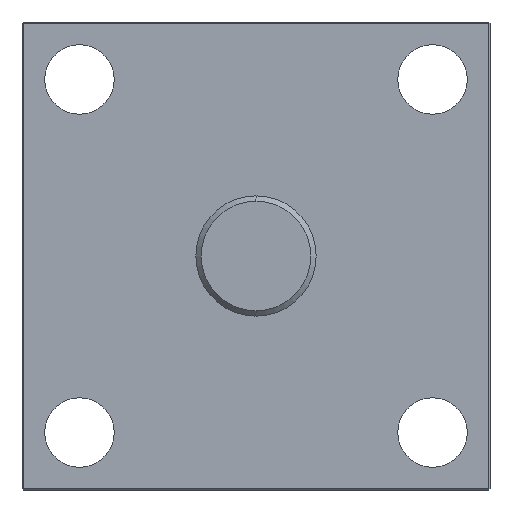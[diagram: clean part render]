
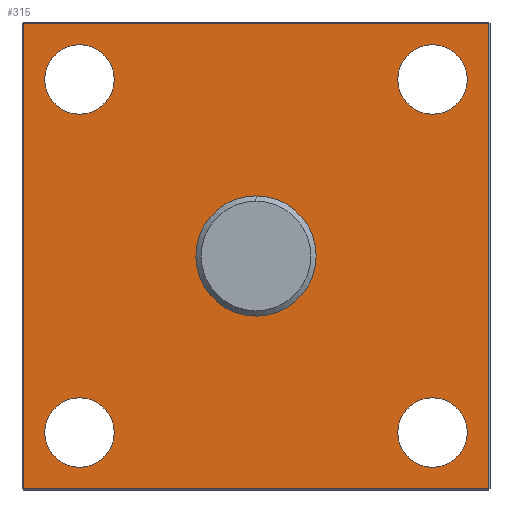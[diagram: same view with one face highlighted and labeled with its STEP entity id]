
A CAD part, left-side view. The second image highlights one B-rep face of the part: STEP entity #315.
In plain terms, the highlighted planar face has unit normal (-1, 0, 0).
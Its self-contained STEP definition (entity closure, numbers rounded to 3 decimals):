
#93 = CARTESIAN_POINT ( 'NONE',  ( -16., 0., 0. ) ) ;
#110 = DIRECTION ( 'NONE',  ( 0., 0., -1. ) ) ;
#128 = DIRECTION ( 'NONE',  ( 0., 0., -1. ) ) ;
#140 = DIRECTION ( 'NONE',  ( 1., 0., 0. ) ) ;
#173 = CARTESIAN_POINT ( 'NONE',  ( -16., 66., 79. ) ) ;
#177 = CARTESIAN_POINT ( 'NONE',  ( -16., 0., 22.5 ) ) ;
#195 = DIRECTION ( 'NONE',  ( 0., 0., -1. ) ) ;
#199 = VERTEX_POINT ( 'NONE', #173 ) ;
#205 = CIRCLE ( 'NONE', #1498, 13. ) ;
#249 = CARTESIAN_POINT ( 'NONE',  ( -16., -66., 66. ) ) ;
#253 = DIRECTION ( 'NONE',  ( 0., 0., -1. ) ) ;
#275 = FACE_BOUND ( 'NONE', #1580, .T. ) ;
#297 = CARTESIAN_POINT ( 'NONE',  ( -16., -66., -66. ) ) ;
#315 = ADVANCED_FACE ( 'NONE', ( #1624, #2033, #434, #1080, #2423, #275 ), #2515, .F. ) ;
#332 = CARTESIAN_POINT ( 'NONE',  ( -16., 0., 87. ) ) ;
#339 = CARTESIAN_POINT ( 'NONE',  ( -16., 66., 53. ) ) ;
#340 = DIRECTION ( 'NONE',  ( 1., 0., 0. ) ) ;
#352 = DIRECTION ( 'NONE',  ( 0., 0., -1. ) ) ;
#367 = DIRECTION ( 'NONE',  ( 0., 0., -1. ) ) ;
#372 = AXIS2_PLACEMENT_3D ( 'NONE', #249, #1713, #1712 ) ;
#376 = CARTESIAN_POINT ( 'NONE',  ( -16., 0., -87. ) ) ;
#433 = DIRECTION ( 'NONE',  ( 0., 0., -1. ) ) ;
#434 = FACE_BOUND ( 'NONE', #928, .T. ) ;
#440 = VERTEX_POINT ( 'NONE', #2059 ) ;
#441 = VERTEX_POINT ( 'NONE', #904 ) ;
#476 = DIRECTION ( 'NONE',  ( 0., 0., -1. ) ) ;
#499 = CARTESIAN_POINT ( 'NONE',  ( -16., -66., 79. ) ) ;
#502 = CIRCLE ( 'NONE', #1642, 22.5 ) ;
#528 = ORIENTED_EDGE ( 'NONE', *, *, #548, .T. ) ;
#548 = EDGE_CURVE ( 'NONE', #2382, #2338, #686, .T. ) ;
#579 = DIRECTION ( 'NONE',  ( 1., 0., 0. ) ) ;
#642 = CIRCLE ( 'NONE', #2332, 13. ) ;
#649 = DIRECTION ( 'NONE',  ( 1., 0., 0. ) ) ;
#656 = DIRECTION ( 'NONE',  ( 0., 0., -1. ) ) ;
#662 = ORIENTED_EDGE ( 'NONE', *, *, #684, .T. ) ;
#664 = ORIENTED_EDGE ( 'NONE', *, *, #2045, .T. ) ;
#667 = DIRECTION ( 'NONE',  ( 0., 1., 0. ) ) ;
#678 = LINE ( 'NONE', #2407, #1988 ) ;
#684 = EDGE_CURVE ( 'NONE', #1828, #1011, #205, .T. ) ;
#686 = CIRCLE ( 'NONE', #372, 13. ) ;
#690 = VERTEX_POINT ( 'NONE', #1112 ) ;
#738 = ORIENTED_EDGE ( 'NONE', *, *, #1504, .T. ) ;
#758 = DIRECTION ( 'NONE',  ( 0., 0., -1. ) ) ;
#761 = ORIENTED_EDGE ( 'NONE', *, *, #2295, .T. ) ;
#794 = LINE ( 'NONE', #2347, #876 ) ;
#812 = LINE ( 'NONE', #332, #1058 ) ;
#848 = CARTESIAN_POINT ( 'NONE',  ( -16., 66., -53. ) ) ;
#862 = EDGE_CURVE ( 'NONE', #1867, #440, #1914, .T. ) ;
#863 = CIRCLE ( 'NONE', #2552, 13. ) ;
#869 = EDGE_LOOP ( 'NONE', ( #761, #2126, #2274, #664 ) ) ;
#876 = VECTOR ( 'NONE', #758, 1000. ) ;
#904 = CARTESIAN_POINT ( 'NONE',  ( -16., -87., 87. ) ) ;
#928 = EDGE_LOOP ( 'NONE', ( #2232, #662 ) ) ;
#978 = EDGE_CURVE ( 'NONE', #1428, #199, #2107, .T. ) ;
#1010 = DIRECTION ( 'NONE',  ( 1., 0., 0. ) ) ;
#1011 = VERTEX_POINT ( 'NONE', #1577 ) ;
#1028 = ORIENTED_EDGE ( 'NONE', *, *, #978, .T. ) ;
#1058 = VECTOR ( 'NONE', #667, 1000. ) ;
#1060 = DIRECTION ( 'NONE',  ( 1., 0., 0. ) ) ;
#1080 = FACE_BOUND ( 'NONE', #1746, .T. ) ;
#1107 = AXIS2_PLACEMENT_3D ( 'NONE', #1486, #2265, #656 ) ;
#1112 = CARTESIAN_POINT ( 'NONE',  ( -16., -87., -87. ) ) ;
#1146 = ORIENTED_EDGE ( 'NONE', *, *, #1583, .T. ) ;
#1150 = CARTESIAN_POINT ( 'NONE',  ( -16., 0., 0. ) ) ;
#1159 = LINE ( 'NONE', #376, #1732 ) ;
#1160 = DIRECTION ( 'NONE',  ( 0., 0., 1. ) ) ;
#1218 = AXIS2_PLACEMENT_3D ( 'NONE', #93, #140, #476 ) ;
#1234 = VERTEX_POINT ( 'NONE', #848 ) ;
#1235 = CARTESIAN_POINT ( 'NONE',  ( -16., -66., 66. ) ) ;
#1283 = EDGE_LOOP ( 'NONE', ( #1470, #1758 ) ) ;
#1298 = EDGE_CURVE ( 'NONE', #440, #1867, #502, .T. ) ;
#1301 = CARTESIAN_POINT ( 'NONE',  ( -16., 66., -66. ) ) ;
#1339 = AXIS2_PLACEMENT_3D ( 'NONE', #1150, #1509, #367 ) ;
#1341 = CARTESIAN_POINT ( 'NONE',  ( -16., 87., -87. ) ) ;
#1412 = VERTEX_POINT ( 'NONE', #1432 ) ;
#1424 = ORIENTED_EDGE ( 'NONE', *, *, #2584, .T. ) ;
#1425 = EDGE_CURVE ( 'NONE', #1011, #1828, #2083, .T. ) ;
#1428 = VERTEX_POINT ( 'NONE', #339 ) ;
#1432 = CARTESIAN_POINT ( 'NONE',  ( -16., 66., -79. ) ) ;
#1440 = VERTEX_POINT ( 'NONE', #1341 ) ;
#1467 = DIRECTION ( 'NONE',  ( 0., -1., 0. ) ) ;
#1470 = ORIENTED_EDGE ( 'NONE', *, *, #1298, .T. ) ;
#1486 = CARTESIAN_POINT ( 'NONE',  ( -16., 66., 66. ) ) ;
#1498 = AXIS2_PLACEMENT_3D ( 'NONE', #2209, #1060, #253 ) ;
#1504 = EDGE_CURVE ( 'NONE', #1234, #1412, #1815, .T. ) ;
#1509 = DIRECTION ( 'NONE',  ( 1., 0., 0. ) ) ;
#1554 = AXIS2_PLACEMENT_3D ( 'NONE', #1301, #340, #1644 ) ;
#1577 = CARTESIAN_POINT ( 'NONE',  ( -16., -66., -79. ) ) ;
#1580 = EDGE_LOOP ( 'NONE', ( #1701, #738 ) ) ;
#1583 = EDGE_CURVE ( 'NONE', #199, #1428, #2383, .T. ) ;
#1624 = FACE_OUTER_BOUND ( 'NONE', #869, .T. ) ;
#1642 = AXIS2_PLACEMENT_3D ( 'NONE', #2591, #1010, #195 ) ;
#1644 = DIRECTION ( 'NONE',  ( 0., 0., -1. ) ) ;
#1662 = CARTESIAN_POINT ( 'NONE',  ( -16., -66., 53. ) ) ;
#1701 = ORIENTED_EDGE ( 'NONE', *, *, #1826, .T. ) ;
#1712 = DIRECTION ( 'NONE',  ( 0., 0., -1. ) ) ;
#1713 = DIRECTION ( 'NONE',  ( 1., 0., 0. ) ) ;
#1732 = VECTOR ( 'NONE', #1467, 1000. ) ;
#1746 = EDGE_LOOP ( 'NONE', ( #1424, #528 ) ) ;
#1758 = ORIENTED_EDGE ( 'NONE', *, *, #862, .T. ) ;
#1811 = CARTESIAN_POINT ( 'NONE',  ( -16., -66., -53. ) ) ;
#1815 = CIRCLE ( 'NONE', #1554, 13. ) ;
#1826 = EDGE_CURVE ( 'NONE', #1412, #1234, #863, .T. ) ;
#1828 = VERTEX_POINT ( 'NONE', #1811 ) ;
#1867 = VERTEX_POINT ( 'NONE', #177 ) ;
#1913 = VERTEX_POINT ( 'NONE', #2379 ) ;
#1914 = CIRCLE ( 'NONE', #1339, 22.5 ) ;
#1988 = VECTOR ( 'NONE', #1160, 1000. ) ;
#2002 = EDGE_CURVE ( 'NONE', #1440, #690, #1159, .T. ) ;
#2033 = FACE_BOUND ( 'NONE', #1283, .T. ) ;
#2045 = EDGE_CURVE ( 'NONE', #441, #1913, #812, .T. ) ;
#2049 = AXIS2_PLACEMENT_3D ( 'NONE', #2217, #649, #433 ) ;
#2059 = CARTESIAN_POINT ( 'NONE',  ( -16., 0., -22.5 ) ) ;
#2069 = DIRECTION ( 'NONE',  ( 1., 0., 0. ) ) ;
#2083 = CIRCLE ( 'NONE', #2367, 13. ) ;
#2107 = CIRCLE ( 'NONE', #1107, 13. ) ;
#2109 = DIRECTION ( 'NONE',  ( 1., 0., 0. ) ) ;
#2126 = ORIENTED_EDGE ( 'NONE', *, *, #2002, .T. ) ;
#2209 = CARTESIAN_POINT ( 'NONE',  ( -16., -66., -66. ) ) ;
#2217 = CARTESIAN_POINT ( 'NONE',  ( -16., 66., 66. ) ) ;
#2232 = ORIENTED_EDGE ( 'NONE', *, *, #1425, .T. ) ;
#2265 = DIRECTION ( 'NONE',  ( 1., 0., 0. ) ) ;
#2274 = ORIENTED_EDGE ( 'NONE', *, *, #2404, .T. ) ;
#2295 = EDGE_CURVE ( 'NONE', #1913, #1440, #794, .T. ) ;
#2332 = AXIS2_PLACEMENT_3D ( 'NONE', #1235, #2109, #352 ) ;
#2338 = VERTEX_POINT ( 'NONE', #1662 ) ;
#2345 = CARTESIAN_POINT ( 'NONE',  ( -16., 66., -66. ) ) ;
#2347 = CARTESIAN_POINT ( 'NONE',  ( -16., 87., 0. ) ) ;
#2367 = AXIS2_PLACEMENT_3D ( 'NONE', #297, #579, #110 ) ;
#2379 = CARTESIAN_POINT ( 'NONE',  ( -16., 87., 87. ) ) ;
#2382 = VERTEX_POINT ( 'NONE', #499 ) ;
#2383 = CIRCLE ( 'NONE', #2049, 13. ) ;
#2404 = EDGE_CURVE ( 'NONE', #690, #441, #678, .T. ) ;
#2407 = CARTESIAN_POINT ( 'NONE',  ( -16., -87., 0. ) ) ;
#2423 = FACE_BOUND ( 'NONE', #2590, .T. ) ;
#2515 = PLANE ( 'NONE',  #1218 ) ;
#2552 = AXIS2_PLACEMENT_3D ( 'NONE', #2345, #2069, #128 ) ;
#2584 = EDGE_CURVE ( 'NONE', #2338, #2382, #642, .T. ) ;
#2590 = EDGE_LOOP ( 'NONE', ( #1028, #1146 ) ) ;
#2591 = CARTESIAN_POINT ( 'NONE',  ( -16., 0., 0. ) ) ;
